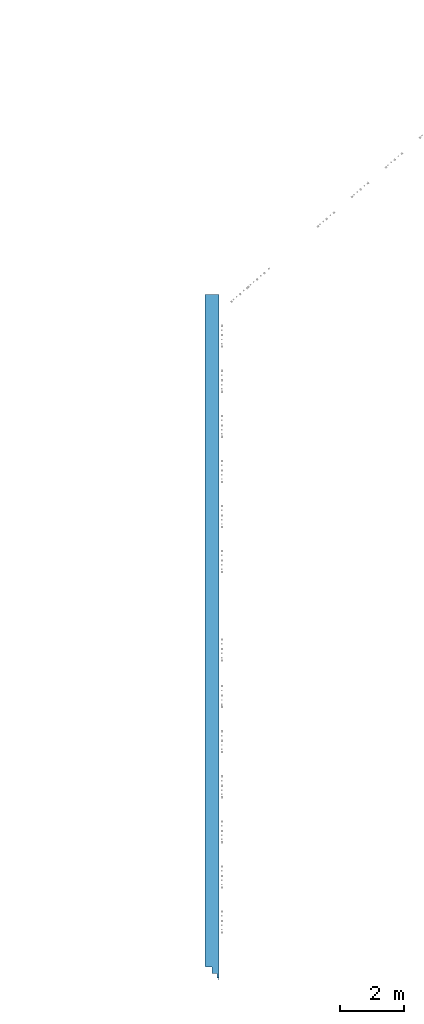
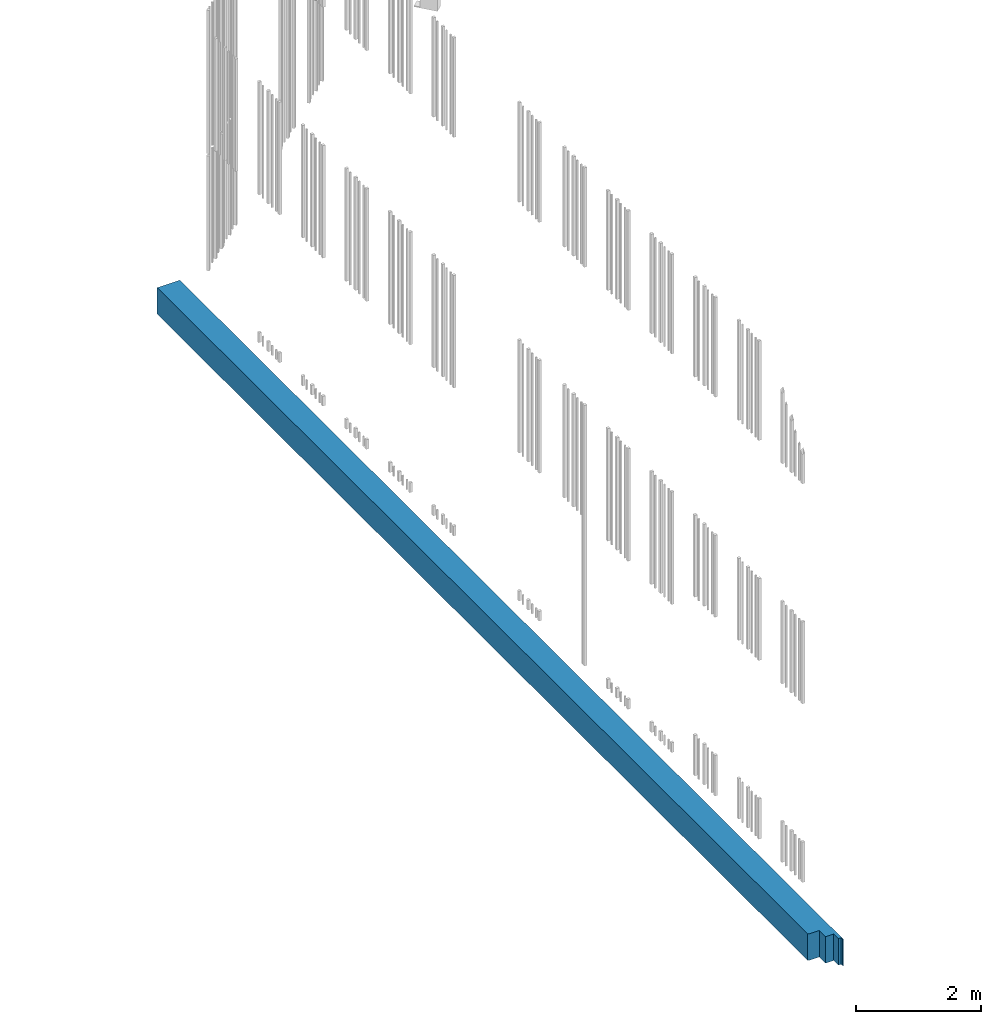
# One storey, part 23 of 124: 1 wall.
"""IFC2X3 building model written with IfcOpenShell, lengths in millimetres."""

from ifc_helpers import new_model, entity, si_unit, converted_unit, derived_unit, money_unit, direction, frame, origin_with_axes, place, context, subcontext, project, spatial, faceted_brep, material, material_list, type_object, element, save


model = new_model("IFC2X3")

# Units and contexts
model_context = context("Model", 3, precision=1e-05, world=origin_with_axes(), true_north=direction((0.0, 1.0)))
body_context = subcontext(model_context, "Body", "Model", "MODEL_VIEW")
ifc_project = project(units=[si_unit("LENGTHUNIT", "METRE", prefix="MILLI"), si_unit("AREAUNIT", "SQUARE_METRE"), si_unit("VOLUMEUNIT", "CUBIC_METRE"), converted_unit("PLANEANGLEUNIT", "DEGREE", entity("IfcPlaneAngleMeasure", 0.0174532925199), si_unit("PLANEANGLEUNIT", "RADIAN"), dimensions=[0, 0, 0, 0, 0, 0, 0]), si_unit("SOLIDANGLEUNIT", "STERADIAN"), money_unit("EUR"), converted_unit("TIMEUNIT", "Year", entity("IfcTimeMeasure", 31556926.0), si_unit("TIMEUNIT", "SECOND"), dimensions=[0, 0, 1, 0, 0, 0, 0]), si_unit("MASSUNIT", "GRAM", prefix="KILO"), si_unit("THERMODYNAMICTEMPERATUREUNIT", "DEGREE_CELSIUS"), si_unit("LUMINOUSINTENSITYUNIT", "LUMEN"), si_unit("ENERGYUNIT", "JOULE", prefix="MEGA"), derived_unit("THERMALCONDUCTANCEUNIT", [(si_unit("POWERUNIT", "WATT"), 1), (si_unit("LENGTHUNIT", "METRE"), -1), (si_unit("THERMODYNAMICTEMPERATUREUNIT", "KELVIN"), -1)]), derived_unit("SPECIFICHEATCAPACITYUNIT", [(si_unit("ENERGYUNIT", "JOULE"), 1), (si_unit("MASSUNIT", "GRAM", prefix="KILO"), -1), (si_unit("THERMODYNAMICTEMPERATUREUNIT", "KELVIN"), -1)]), derived_unit("MASSDENSITYUNIT", [(si_unit("MASSUNIT", "GRAM", prefix="KILO"), 1), (si_unit("VOLUMEUNIT", "CUBIC_METRE"), -1)])], contexts=[model_context])

# Site, building, storey
site_placement = place(None, origin_with_axes())
site = spatial("IfcSite", under=ifc_project, at=site_placement, Name="Site", CompositionType="ELEMENT")
building_placement = place(site_placement, origin_with_axes())
building = spatial("IfcBuilding", under=site, at=building_placement, Name="Building", CompositionType="ELEMENT")
storey_placement = place(building_placement, frame((0.0, 0.0, -1615.0), z_axis=(0.0, 0.0, 1.0), x_axis=(1.0, 0.0, 0.0)))
storey = spatial("IfcBuildingStorey", under=building, at=storey_placement, Name="0  korrus", CompositionType="ELEMENT", Elevation=-1615.0)

# Wall
ifc_material_1 = material(Name="Krohv - Lubjakivi")
ifc_material_2 = material(Name="Raudbetoon - Konstruktsioon")
ifc_material_3 = material(Name="Soojustus - Plastik Kõva")
ifc_material_4 = material(Name="Membraan - Veekindel")
ifc_material_list = material_list([ifc_material_1, ifc_material_2, ifc_material_3, ifc_material_3, ifc_material_4, ifc_material_4])
wall_type = type_object("IfcWallType", Name="VS-04", PredefinedType="NOTDEFINED")
wall_placement = place(storey_placement, frame((139289.999999, 45760.0000107, 995.0), z_axis=(0.0, 0.0, 1.0), x_axis=(0.0, 1.0, 0.0)))
element("IfcWall", 1, at=wall_placement, inside=storey, type_object=wall_type, material=ifc_material_list, Name="VS-03", context=body_context, shape_type="Brep", body=[
    faceted_brep([(20892.142905, -9.99999999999, 520.0), (20892.142905, 0.0, 520.0), (0.0, 0.0, 520.0), (9.16600129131e-10, -9.99999999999, 520.0), (20892.142905, -9.99999999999, 0.0), (20892.142905, 0.0, 0.0), (0.0, 0.0, 0.0), (9.16600129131e-10, -9.99999999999, 0.0)], [[[0, 1, 2, 3]], [[0, 4, 5, 1]], [[1, 5, 6, 2]], [[3, 2, 6, 7]], [[4, 0, 3, 7]], [[5, 4, 7, 6]]]),
    faceted_brep([(20892.142905, -210.0, 520.0), (20892.142905, -9.99999999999, 520.0), (-9.99999999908, -9.99999999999, 520.0), (-9.99999998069, -210.0, 520.0), (20892.142905, -210.0, 0.0), (20892.142905, -9.99999999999, 0.0), (-9.99999999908, -9.99999999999, 0.0), (-9.99999998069, -210.0, 0.0)], [[[0, 1, 2, 3]], [[0, 4, 5, 1]], [[1, 5, 6, 2]], [[3, 2, 6, 7]], [[4, 0, 3, 7]], [[5, 4, 7, 6]]]),
    faceted_brep([(20892.142905, -360.0, 520.0), (20892.142905, -210.0, 520.0), (-209.999999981, -210.0, 520.0), (-209.999999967, -360.0, 520.0), (20892.142905, -360.0, 0.0), (20892.142905, -210.0, 0.0), (-209.999999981, -210.0, 0.0), (-209.999999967, -360.0, 0.0)], [[[0, 1, 2, 3]], [[0, 4, 5, 1]], [[1, 5, 6, 2]], [[3, 2, 6, 7]], [[4, 0, 3, 7]], [[5, 4, 7, 6]]]),
    faceted_brep([(20892.142905, -410.0, 520.0), (20892.142905, -360.0, 520.0), (-359.999999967, -360.0, 520.0), (-359.999999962, -410.0, 520.0), (20892.142905, -410.0, 0.0), (20892.142905, -360.0, 0.0), (-359.999999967, -360.0, 0.0), (-359.999999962, -410.0, 0.0)], [[[0, 1, 2, 3]], [[0, 4, 5, 1]], [[1, 5, 6, 2]], [[3, 2, 6, 7]], [[4, 0, 3, 7]], [[5, 4, 7, 6]]]),
    faceted_brep([(20892.142905, -415.0, 520.0), (20892.142905, -410.0, 520.0), (-409.999999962, -410.0, 520.0), (-409.999999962, -415.0, 520.0), (20892.142905, -415.0, 0.0), (20892.142905, -410.0, 0.0), (-409.999999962, -410.0, 0.0), (-409.999999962, -415.0, 0.0)], [[[0, 1, 2, 3]], [[0, 4, 5, 1]], [[1, 5, 6, 2]], [[3, 2, 6, 7]], [[4, 0, 3, 7]], [[5, 4, 7, 6]]]),
    faceted_brep([(20892.142905, -420.0, 520.0), (20892.142905, -415.0, 520.0), (-414.999999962, -415.0, 520.0), (-414.999999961, -420.0, 520.0), (20892.142905, -420.0, 0.0), (20892.142905, -415.0, 0.0), (-414.999999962, -415.0, 0.0), (-414.999999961, -420.0, 0.0)], [[[0, 1, 2, 3]], [[0, 4, 5, 1]], [[1, 5, 6, 2]], [[3, 2, 6, 7]], [[4, 0, 3, 7]], [[5, 4, 7, 6]]]),
])

save(model, "model.ifc")
